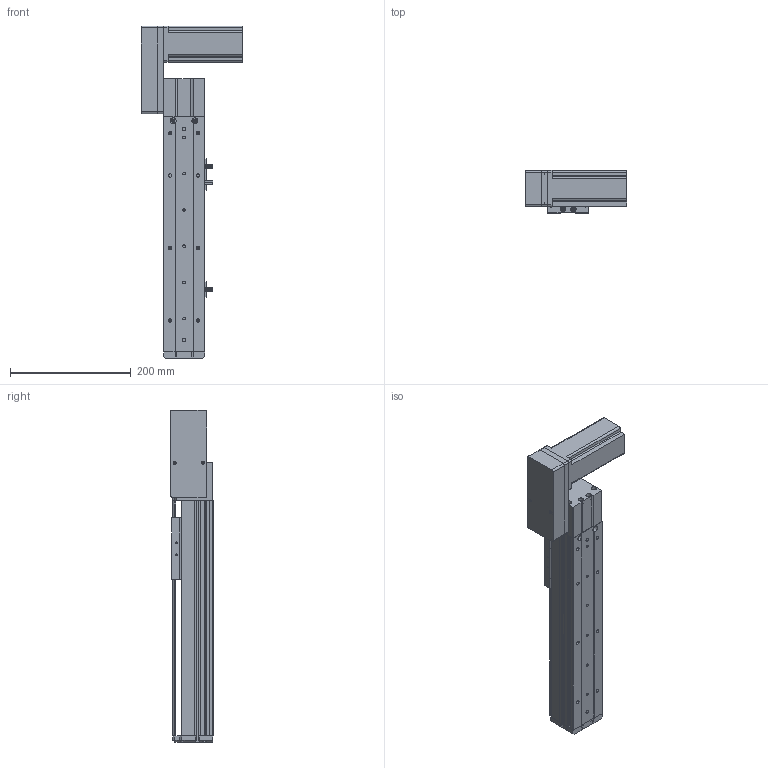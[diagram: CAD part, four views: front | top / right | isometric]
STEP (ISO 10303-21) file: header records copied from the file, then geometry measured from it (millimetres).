
FILE_DESCRIPTION (( 'STEP AP214' ), '1' );
FILE_NAME ('KSD68BS-S200-MRB-CM.STEP', '2019-08-22T05:44:26', ( '微软用户' ), ( '微软中国' ), 'SwSTEP 2.0', 'SolidWorks 2014', '' );
FILE_SCHEMA (( 'AUTOMOTIVE_DESIGN' ));
Length unit declared in the file: millimetre
Products named in the file (10): 悵誘欶奻狟殏; 68宽马达安装板连板上折同步带; 68宽单导轨半封闭同步带主动轮座右; 68单导轨同步带半封闭端板; KSD68BS 200俴最裔啣圉猾敕; KSD68BS半封闭同步带传动导轨座; U倰嫖萇EEㄜSX672; 台达ECMA－C20604AS伺服电机（400W); KSD68BS 200俴最菁啣圉猾敕; KSD68BS-S200-MRB-CM
Assembly tree (11 placements, depth 2):
  KSD68BS-S200-MRB-CM
    KSD68BS 200俴最菁啣圉猾敕
    台达ECMA－C20604AS伺服电机（400W)
    U倰嫖萇EEㄜSX672  x3
    KSD68BS半封闭同步带传动导轨座
    KSD68BS 200俴最裔啣圉猾敕
    68单导轨同步带半封闭端板
    68宽单导轨半封闭同步带主动轮座右
    68宽马达安装板连板上折同步带
    悵誘欶奻狟殏
Bounding box: 167.2 x 70.5 x 549.5 mm (x, y, z)
Volume: 1361860.7 mm3; surface area: 403871.9 mm2
Topology: 12 solids, 12 shells, 1178 faces, 3316 edges, 2150 vertices
Faces by surface type: cylinder 550, plane 545, cone 83
Entity records: 40509 total; most frequent: CARTESIAN_POINT 7187, DIRECTION 5448, ORIENTED_EDGE 5384, EDGE_CURVE 2692, AXIS2_PLACEMENT_3D 1939, VERTEX_POINT 1774, VECTOR 1570, LINE 1570
